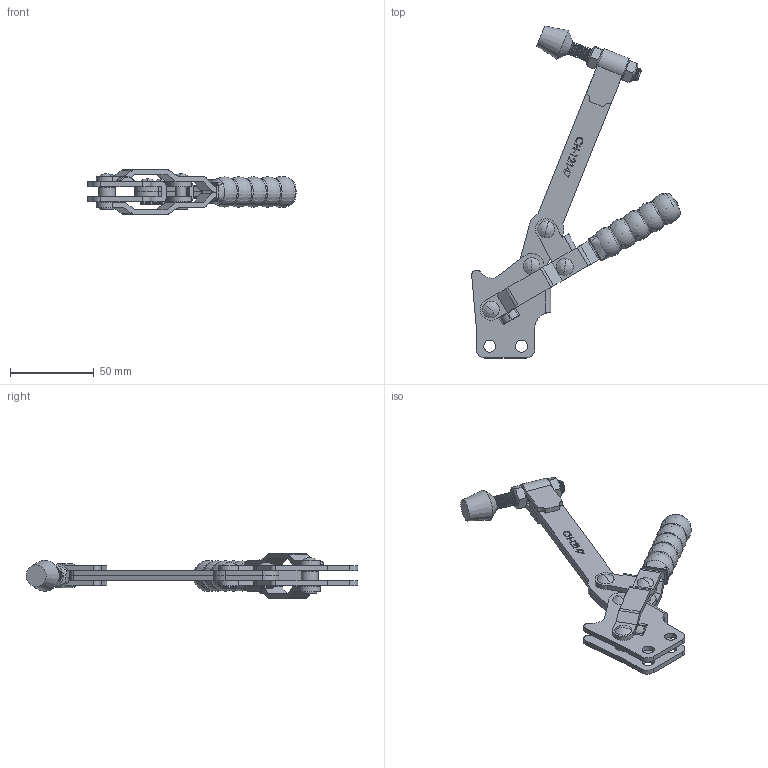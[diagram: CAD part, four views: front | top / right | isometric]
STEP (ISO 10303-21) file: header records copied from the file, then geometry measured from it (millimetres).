
FILE_DESCRIPTION(/* description */ ('STEP AP203'),/* implementation_level */ '2;1');
FILE_NAME(/* name */ 'E:\SERWER_ZAPAS\MODELE brakujace\brakujące stepy_08012019\CH-12147\CH-12147_OTWARTY.stp',/* time_stamp */ '2019-01-31T15:20:14+01:00',/* author */ ('Admin'),/* organization */ ('Microsoft'),/* preprocessor_version */ 'ST-DEVELOPER v17.2',/* originating_system */ 'Autodesk Inventor 2019',/* authorisation */ '');
FILE_SCHEMA (('AUTOMOTIVE_DESIGN { 1 0 10303 214 3 1 1 }'));
Products named in the file (11): CH-12147_OTWARTY; CH-12130-04 CONNECTING-PLATE; CH-12130-05; CH-12130-03 STRAIGHT HANDLE; CH-12130-06; CH-12130-08; CH-FC-56212 SPINDLE SUPPLIED; CH-FC-56212 Nut; CH-12130ºùÂ«ÊÖ±úÌ×; CH-12147-02 LONG SOLID BAR_Ä¬ÈÏ_°´
¼Ó¹¤_; CH-12145-01 STRAIGHT BASE
Assembly tree (13 placements, depth 2):
  CH-12147_OTWARTY
    CH-12130-04 CONNECTING-PLATE
    CH-12130-05
    CH-12130-03 STRAIGHT HANDLE
    CH-12130-08  x2
    CH-12130-06  x2
    CH-FC-56212 Nut  x2
    CH-FC-56212 SPINDLE SUPPLIED
    CH-12130ºùÂ«ÊÖ±úÌ×
    CH-12147-02 LONG SOLID BAR_Ä¬ÈÏ_°´
¼Ó¹¤_
    CH-12145-01 STRAIGHT BASE
Bounding box: 124.72 x 198.44 x 26.8 mm (x, y, z)
Volume: 58738.4 mm3; surface area: 46853.3 mm2
Topology: 16 solids, 16 shells, 663 faces, 1865 edges, 1258 vertices
Faces by surface type: plane 291, bspline 179, cylinder 142, torus 24, cone 20, sphere 7
Full cylindrical faces by diameter (mm): 1.55 x1, 1.744 x1, 3.9 x2, 6.3 x6, 6.4 x20, 6.8 x1, 7.2 x4, 7.92 x32, 8.4 x2, 10 x1
Entity records: 41041 total; most frequent: CARTESIAN_POINT 25470, ORIENTED_EDGE 3480, DIRECTION 2601, EDGE_CURVE 1740, VERTEX_POINT 1186, LINE 937, VECTOR 937, AXIS2_PLACEMENT_3D 832
